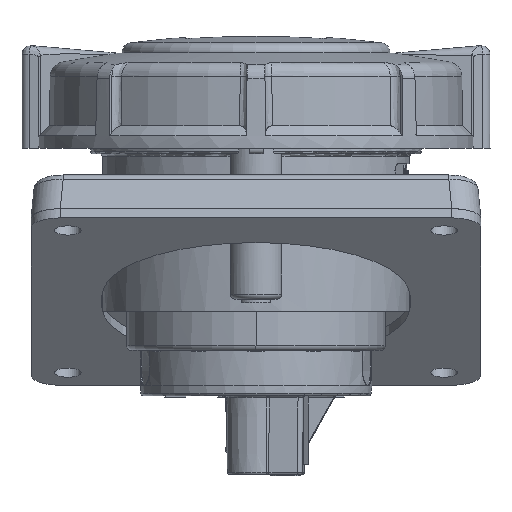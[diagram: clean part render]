
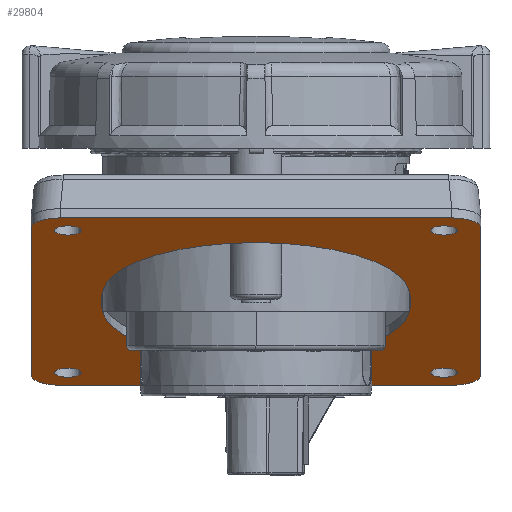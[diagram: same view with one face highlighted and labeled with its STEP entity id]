
A CAD part, front view. The second image highlights one B-rep face of the part: STEP entity #29804.
In plain terms, the highlighted planar face has unit normal (0, -0.342, -0.94).
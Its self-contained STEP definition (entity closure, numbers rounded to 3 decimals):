
#1284=CARTESIAN_POINT('',(-40.,38.783,-16.244));
#1285=DIRECTION('',(0.,0.342,0.94));
#1286=DIRECTION('',(0.,0.94,-0.342));
#1287=AXIS2_PLACEMENT_3D('',#1284,#1285,#1286);
#1289=DIRECTION('',(0.,-0.94,0.342));
#1290=VECTOR('',#1289,88.);
#1291=CARTESIAN_POINT('',(-46.,38.783,-16.244));
#1292=LINE('6342',#1291,#1290);
#1293=CARTESIAN_POINT('',(-40.,-43.91,13.854));
#1294=DIRECTION('',(0.,0.342,0.94));
#1295=DIRECTION('',(-1.,0.,0.));
#1296=AXIS2_PLACEMENT_3D('',#1293,#1294,#1295);
#1298=DIRECTION('',(1.,0.,0.));
#1299=VECTOR('',#1298,80.);
#1300=CARTESIAN_POINT('',(-40.,-49.548,15.906));
#1301=LINE('6344',#1300,#1299);
#1302=CARTESIAN_POINT('',(40.,-43.91,13.854));
#1303=DIRECTION('',(0.,0.342,0.94));
#1304=DIRECTION('',(0.,-0.94,0.342));
#1305=AXIS2_PLACEMENT_3D('',#1302,#1303,#1304);
#1307=DIRECTION('',(0.,0.94,-0.342));
#1308=VECTOR('',#1307,88.);
#1309=CARTESIAN_POINT('',(46.,-43.91,13.854));
#1310=LINE('6346',#1309,#1308);
#1311=CARTESIAN_POINT('',(40.,38.783,-16.244));
#1312=DIRECTION('',(0.,0.342,0.94));
#1313=DIRECTION('',(1.,0.,0.));
#1314=AXIS2_PLACEMENT_3D('',#1311,#1312,#1313);
#1316=DIRECTION('',(-1.,0.,0.));
#1317=VECTOR('',#1316,80.);
#1318=CARTESIAN_POINT('',(40.,44.421,-18.296));
#1319=LINE('6348',#1318,#1317);
#1320=CARTESIAN_POINT('',(-38.5,37.374,-15.731));
#1321=DIRECTION('',(0.,-0.342,-0.94));
#1322=DIRECTION('',(1.,0.,0.));
#1323=AXIS2_PLACEMENT_3D('',#1320,#1321,#1322);
#1325=CARTESIAN_POINT('',(-38.5,37.374,-15.731));
#1326=DIRECTION('',(0.,-0.342,-0.94));
#1327=DIRECTION('',(-1.,0.,0.));
#1328=AXIS2_PLACEMENT_3D('',#1325,#1326,#1327);
#1330=CARTESIAN_POINT('',(38.5,37.374,-15.731));
#1331=DIRECTION('',(0.,-0.342,-0.94));
#1332=DIRECTION('',(1.,0.,0.));
#1333=AXIS2_PLACEMENT_3D('',#1330,#1331,#1332);
#1335=CARTESIAN_POINT('',(38.5,37.374,-15.731));
#1336=DIRECTION('',(0.,-0.342,-0.94));
#1337=DIRECTION('',(-1.,0.,0.));
#1338=AXIS2_PLACEMENT_3D('',#1335,#1336,#1337);
#1340=CARTESIAN_POINT('',(38.5,-42.5,13.341));
#1341=DIRECTION('',(0.,-0.342,-0.94));
#1342=DIRECTION('',(1.,0.,0.));
#1343=AXIS2_PLACEMENT_3D('',#1340,#1341,#1342);
#1345=CARTESIAN_POINT('',(38.5,-42.5,13.341));
#1346=DIRECTION('',(0.,-0.342,-0.94));
#1347=DIRECTION('',(-1.,0.,0.));
#1348=AXIS2_PLACEMENT_3D('',#1345,#1346,#1347);
#1350=CARTESIAN_POINT('',(-38.5,-42.5,13.341));
#1351=DIRECTION('',(0.,-0.342,-0.94));
#1352=DIRECTION('',(1.,0.,0.));
#1353=AXIS2_PLACEMENT_3D('',#1350,#1351,#1352);
#1355=CARTESIAN_POINT('',(-38.5,-42.5,13.341));
#1356=DIRECTION('',(0.,-0.342,-0.94));
#1357=DIRECTION('',(-1.,0.,0.));
#1358=AXIS2_PLACEMENT_3D('',#1355,#1356,#1357);
#1360=DIRECTION('',(0.,-0.94,0.342));
#1361=VECTOR('',#1360,7.5);
#1362=CARTESIAN_POINT('',(31.5,0.96,-2.478));
#1363=LINE('6349',#1362,#1361);
#1364=CARTESIAN_POINT('',(0.,-6.087,0.087));
#1365=DIRECTION('',(0.,-0.342,-0.94));
#1366=DIRECTION('',(1.,0.,0.));
#1367=AXIS2_PLACEMENT_3D('',#1364,#1365,#1366);
#1369=DIRECTION('',(0.,0.94,-0.342));
#1370=VECTOR('',#1369,7.5);
#1371=CARTESIAN_POINT('',(-31.5,-6.087,0.087));
#1372=LINE('6351',#1371,#1370);
#1373=CARTESIAN_POINT('',(0.,0.96,-2.478));
#1374=DIRECTION('',(0.,-0.342,-0.94));
#1375=DIRECTION('',(-1.,0.,0.));
#1376=AXIS2_PLACEMENT_3D('',#1373,#1374,#1375);
#28092=CARTESIAN_POINT('',(-35.75,37.374,-15.731));
#28093=CARTESIAN_POINT('',(-41.25,37.374,-15.731));
#28094=VERTEX_POINT('',#28092);
#28095=VERTEX_POINT('',#28093);
#28096=CARTESIAN_POINT('',(41.25,37.374,-15.731));
#28097=CARTESIAN_POINT('',(35.75,37.374,-15.731));
#28098=VERTEX_POINT('',#28096);
#28099=VERTEX_POINT('',#28097);
#28100=CARTESIAN_POINT('',(41.25,-42.5,13.341));
#28101=CARTESIAN_POINT('',(35.75,-42.5,13.341));
#28102=VERTEX_POINT('',#28100);
#28103=VERTEX_POINT('',#28101);
#28104=CARTESIAN_POINT('',(-35.75,-42.5,13.341));
#28105=CARTESIAN_POINT('',(-41.25,-42.5,13.341));
#28106=VERTEX_POINT('',#28104);
#28107=VERTEX_POINT('',#28105);
#28108=CARTESIAN_POINT('',(-40.,44.421,-18.296));
#28109=CARTESIAN_POINT('',(-46.,38.783,-16.244));
#28110=VERTEX_POINT('',#28108);
#28111=VERTEX_POINT('',#28109);
#28112=CARTESIAN_POINT('',(-46.,-43.91,13.854));
#28113=VERTEX_POINT('',#28112);
#28114=CARTESIAN_POINT('',(-40.,-49.548,15.906));
#28115=VERTEX_POINT('',#28114);
#28116=CARTESIAN_POINT('',(40.,-49.548,15.906));
#28117=VERTEX_POINT('',#28116);
#28118=CARTESIAN_POINT('',(46.,-43.91,13.854));
#28119=VERTEX_POINT('',#28118);
#28120=CARTESIAN_POINT('',(46.,38.783,-16.244));
#28121=VERTEX_POINT('',#28120);
#28122=CARTESIAN_POINT('',(40.,44.421,-18.296));
#28123=VERTEX_POINT('',#28122);
#28124=CARTESIAN_POINT('',(31.5,0.96,-2.478));
#28125=CARTESIAN_POINT('',(31.5,-6.087,0.087));
#28126=VERTEX_POINT('',#28124);
#28127=VERTEX_POINT('',#28125);
#28128=CARTESIAN_POINT('',(-31.5,-6.087,0.087));
#28129=VERTEX_POINT('',#28128);
#28130=CARTESIAN_POINT('',(-31.5,0.96,-2.478));
#28131=VERTEX_POINT('',#28130);
#29752=CARTESIAN_POINT('',(0.,-2.563,-1.195));
#29753=DIRECTION('',(0.,0.342,0.94));
#29754=DIRECTION('',(1.,0.,0.));
#29755=AXIS2_PLACEMENT_3D('',#29752,#29753,#29754);
#29756=PLANE('1881',#29755);
#29757=ORIENTED_EDGE('6341',*,*,#29127,.T.);
#29759=ORIENTED_EDGE('6342',*,*,#29758,.T.);
#29760=ORIENTED_EDGE('6343',*,*,#29332,.T.);
#29762=ORIENTED_EDGE('6344',*,*,#29761,.T.);
#29763=ORIENTED_EDGE('6345',*,*,#29554,.T.);
#29765=ORIENTED_EDGE('6346',*,*,#29764,.T.);
#29766=ORIENTED_EDGE('6347',*,*,#29718,.T.);
#29767=ORIENTED_EDGE('6348',*,*,#29739,.T.);
#29768=EDGE_LOOP('1881',(#29757,#29759,#29760,#29762,#29763,#29765,#29766,
#29767));
#29769=FACE_OUTER_BOUND('1881',#29768,.F.);
#29771=ORIENTED_EDGE('6333',*,*,#29770,.T.);
#29773=ORIENTED_EDGE('6334',*,*,#29772,.T.);
#29774=EDGE_LOOP('1881',(#29771,#29773));
#29775=FACE_BOUND('1881',#29774,.F.);
#29777=ORIENTED_EDGE('6335',*,*,#29776,.T.);
#29779=ORIENTED_EDGE('6336',*,*,#29778,.T.);
#29780=EDGE_LOOP('1881',(#29777,#29779));
#29781=FACE_BOUND('1881',#29780,.F.);
#29783=ORIENTED_EDGE('6337',*,*,#29782,.T.);
#29785=ORIENTED_EDGE('6338',*,*,#29784,.T.);
#29786=EDGE_LOOP('1881',(#29783,#29785));
#29787=FACE_BOUND('1881',#29786,.F.);
#29789=ORIENTED_EDGE('6339',*,*,#29788,.T.);
#29791=ORIENTED_EDGE('6340',*,*,#29790,.T.);
#29792=EDGE_LOOP('1881',(#29789,#29791));
#29793=FACE_BOUND('1881',#29792,.F.);
#29795=ORIENTED_EDGE('6349',*,*,#29794,.T.);
#29797=ORIENTED_EDGE('6350',*,*,#29796,.T.);
#29799=ORIENTED_EDGE('6351',*,*,#29798,.T.);
#29801=ORIENTED_EDGE('6352',*,*,#29800,.T.);
#29802=EDGE_LOOP('1881',(#29795,#29797,#29799,#29801));
#29803=FACE_BOUND('1881',#29802,.F.);
#1288=CIRCLE('6341',#1287,6.);
#1297=CIRCLE('6343',#1296,6.);
#1306=CIRCLE('6345',#1305,6.);
#1315=CIRCLE('6347',#1314,6.);
#1324=CIRCLE('6333',#1323,2.75);
#1329=CIRCLE('6334',#1328,2.75);
#1334=CIRCLE('6335',#1333,2.75);
#1339=CIRCLE('6336',#1338,2.75);
#1344=CIRCLE('6337',#1343,2.75);
#1349=CIRCLE('6338',#1348,2.75);
#1354=CIRCLE('6339',#1353,2.75);
#1359=CIRCLE('6340',#1358,2.75);
#1368=CIRCLE('6350',#1367,31.5);
#1377=CIRCLE('6352',#1376,31.5);
#29127=EDGE_CURVE('6341',#28110,#28111,#1288,.T.);
#29332=EDGE_CURVE('6343',#28113,#28115,#1297,.T.);
#29554=EDGE_CURVE('6345',#28117,#28119,#1306,.T.);
#29718=EDGE_CURVE('6347',#28121,#28123,#1315,.T.);
#29739=EDGE_CURVE('6348',#28123,#28110,#1319,.T.);
#29758=EDGE_CURVE('6342',#28111,#28113,#1292,.T.);
#29761=EDGE_CURVE('6344',#28115,#28117,#1301,.T.);
#29764=EDGE_CURVE('6346',#28119,#28121,#1310,.T.);
#29770=EDGE_CURVE('6333',#28094,#28095,#1324,.T.);
#29772=EDGE_CURVE('6334',#28095,#28094,#1329,.T.);
#29776=EDGE_CURVE('6335',#28098,#28099,#1334,.T.);
#29778=EDGE_CURVE('6336',#28099,#28098,#1339,.T.);
#29782=EDGE_CURVE('6337',#28102,#28103,#1344,.T.);
#29784=EDGE_CURVE('6338',#28103,#28102,#1349,.T.);
#29788=EDGE_CURVE('6339',#28106,#28107,#1354,.T.);
#29790=EDGE_CURVE('6340',#28107,#28106,#1359,.T.);
#29794=EDGE_CURVE('6349',#28126,#28127,#1363,.T.);
#29796=EDGE_CURVE('6350',#28127,#28129,#1368,.T.);
#29798=EDGE_CURVE('6351',#28129,#28131,#1372,.T.);
#29800=EDGE_CURVE('6352',#28131,#28126,#1377,.T.);
#29804=ADVANCED_FACE('1881',(#29769,#29775,#29781,#29787,#29793,#29803),#29756,
.F.);
